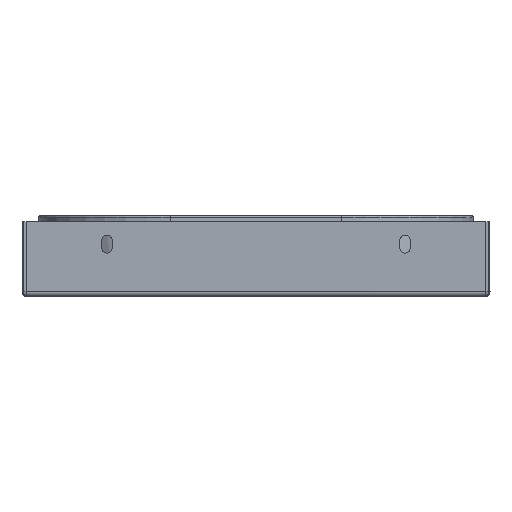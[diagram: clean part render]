
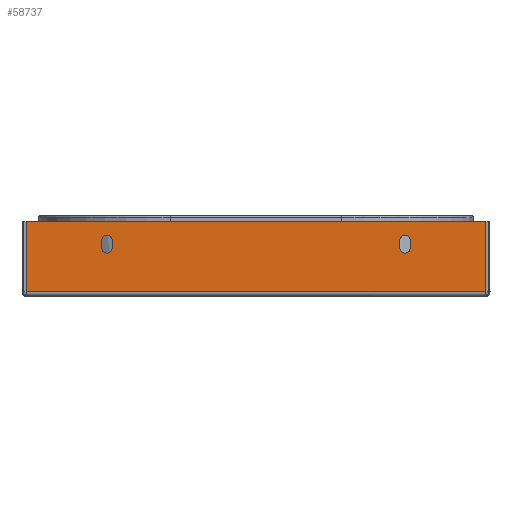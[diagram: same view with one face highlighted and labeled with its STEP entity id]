
A CAD part, front view. The second image highlights one B-rep face of the part: STEP entity #58737.
In plain terms, the highlighted planar face has unit normal (0, -1, 0).
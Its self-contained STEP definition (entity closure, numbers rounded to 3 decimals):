
#55943=CARTESIAN_POINT('',(100.,-102.,4.4));
#55944=DIRECTION('',(0.,1.,0.));
#55945=DIRECTION('',(1.,0.,0.));
#55946=AXIS2_PLACEMENT_3D('',#55943,#55944,#55945);
#55951=CARTESIAN_POINT('',(100.,-102.,9.4));
#55952=DIRECTION('',(0.,1.,0.));
#55953=DIRECTION('',(-1.,0.,0.));
#55954=AXIS2_PLACEMENT_3D('',#55951,#55952,#55953);
#55959=CARTESIAN_POINT('',(-100.,-102.,4.4));
#55960=DIRECTION('',(0.,1.,0.));
#55961=DIRECTION('',(1.,0.,0.));
#55962=AXIS2_PLACEMENT_3D('',#55959,#55960,#55961);
#55967=CARTESIAN_POINT('',(-100.,-102.,9.4));
#55968=DIRECTION('',(0.,1.,0.));
#55969=DIRECTION('',(-1.,0.,0.));
#55970=AXIS2_PLACEMENT_3D('',#55967,#55968,#55969);
#55975=DIRECTION('',(0.,0.,-1.));
#55976=VECTOR('',#55975,47.);
#55977=CARTESIAN_POINT('',(-154.293,-102.,21.9));
#55978=LINE('',#55977,#55976);
#56003=DIRECTION('',(0.,0.,-1.));
#56004=VECTOR('',#56003,5.);
#56005=CARTESIAN_POINT('',(96.5,-102.,9.4));
#56006=LINE('',#56005,#56004);
#56031=DIRECTION('',(0.,0.,1.));
#56032=VECTOR('',#56031,5.);
#56033=CARTESIAN_POINT('',(103.5,-102.,4.4));
#56034=LINE('',#56033,#56032);
#56084=DIRECTION('',(0.,0.,1.));
#56085=VECTOR('',#56084,5.);
#56086=CARTESIAN_POINT('',(-96.5,-102.,4.4));
#56087=LINE('',#56086,#56085);
#56112=DIRECTION('',(0.,0.,-1.));
#56113=VECTOR('',#56112,5.);
#56114=CARTESIAN_POINT('',(-103.5,-102.,9.4));
#56115=LINE('',#56114,#56113);
#56822=DIRECTION('',(-1.,0.,0.));
#56823=VECTOR('',#56822,308.586);
#56824=CARTESIAN_POINT('',(154.293,-102.,-25.1));
#56825=LINE('',#56824,#56823);
#56863=DIRECTION('',(0.,0.,-1.));
#56864=VECTOR('',#56863,47.);
#56865=CARTESIAN_POINT('',(154.293,-102.,21.9));
#56866=LINE('',#56865,#56864);
#56942=DIRECTION('',(1.,0.,0.));
#56943=VECTOR('',#56942,308.586);
#56944=CARTESIAN_POINT('',(-154.293,-102.,21.9));
#56945=LINE('',#56944,#56943);
#57639=CARTESIAN_POINT('',(-154.293,-102.,21.9));
#57640=VERTEX_POINT('',#57639);
#57650=CARTESIAN_POINT('',(-154.293,-102.,-25.1));
#57651=VERTEX_POINT('',#57650);
#57652=CARTESIAN_POINT('',(154.293,-102.,21.9));
#57653=VERTEX_POINT('',#57652);
#57654=CARTESIAN_POINT('',(154.293,-102.,-25.1));
#57655=VERTEX_POINT('',#57654);
#57656=CARTESIAN_POINT('',(-96.5,-102.,4.4));
#57657=CARTESIAN_POINT('',(-96.5,-102.,9.4));
#57658=VERTEX_POINT('',#57656);
#57659=VERTEX_POINT('',#57657);
#57660=CARTESIAN_POINT('',(-103.5,-102.,9.4));
#57661=VERTEX_POINT('',#57660);
#57662=CARTESIAN_POINT('',(-103.5,-102.,4.4));
#57663=VERTEX_POINT('',#57662);
#57664=CARTESIAN_POINT('',(103.5,-102.,4.4));
#57665=CARTESIAN_POINT('',(103.5,-102.,9.4));
#57666=VERTEX_POINT('',#57664);
#57667=VERTEX_POINT('',#57665);
#57668=CARTESIAN_POINT('',(96.5,-102.,9.4));
#57669=VERTEX_POINT('',#57668);
#57670=CARTESIAN_POINT('',(96.5,-102.,4.4));
#57671=VERTEX_POINT('',#57670);
#58703=CARTESIAN_POINT('',(155.,-102.,-26.1));
#58704=DIRECTION('',(0.,1.,0.));
#58705=DIRECTION('',(0.,0.,-1.));
#58706=AXIS2_PLACEMENT_3D('',#58703,#58704,#58705);
#58707=PLANE('',#58706);
#58709=ORIENTED_EDGE('',*,*,#58708,.T.);
#58710=ORIENTED_EDGE('',*,*,#58697,.F.);
#58712=ORIENTED_EDGE('',*,*,#58711,.T.);
#58714=ORIENTED_EDGE('',*,*,#58713,.T.);
#58715=EDGE_LOOP('',(#58709,#58710,#58712,#58714));
#58716=FACE_OUTER_BOUND('',#58715,.F.);
#58718=ORIENTED_EDGE('',*,*,#58717,.F.);
#58720=ORIENTED_EDGE('',*,*,#58719,.T.);
#58722=ORIENTED_EDGE('',*,*,#58721,.F.);
#58724=ORIENTED_EDGE('',*,*,#58723,.T.);
#58725=EDGE_LOOP('',(#58718,#58720,#58722,#58724));
#58726=FACE_BOUND('',#58725,.F.);
#58728=ORIENTED_EDGE('',*,*,#58727,.F.);
#58730=ORIENTED_EDGE('',*,*,#58729,.T.);
#58732=ORIENTED_EDGE('',*,*,#58731,.F.);
#58734=ORIENTED_EDGE('',*,*,#58733,.T.);
#58735=EDGE_LOOP('',(#58728,#58730,#58732,#58734));
#58736=FACE_BOUND('',#58735,.F.);
#55947=CIRCLE('',#55946,3.5);
#55955=CIRCLE('',#55954,3.5);
#55963=CIRCLE('',#55962,3.5);
#55971=CIRCLE('',#55970,3.5);
#58697=EDGE_CURVE('',#57640,#57651,#55978,.T.);
#58708=EDGE_CURVE('',#57655,#57651,#56825,.T.);
#58711=EDGE_CURVE('',#57640,#57653,#56945,.T.);
#58713=EDGE_CURVE('',#57653,#57655,#56866,.T.);
#58717=EDGE_CURVE('',#57658,#57663,#55963,.T.);
#58719=EDGE_CURVE('',#57658,#57659,#56087,.T.);
#58721=EDGE_CURVE('',#57661,#57659,#55971,.T.);
#58723=EDGE_CURVE('',#57661,#57663,#56115,.T.);
#58727=EDGE_CURVE('',#57666,#57671,#55947,.T.);
#58729=EDGE_CURVE('',#57666,#57667,#56034,.T.);
#58731=EDGE_CURVE('',#57669,#57667,#55955,.T.);
#58733=EDGE_CURVE('',#57669,#57671,#56006,.T.);
#58737=ADVANCED_FACE('',(#58716,#58726,#58736),#58707,.F.);
